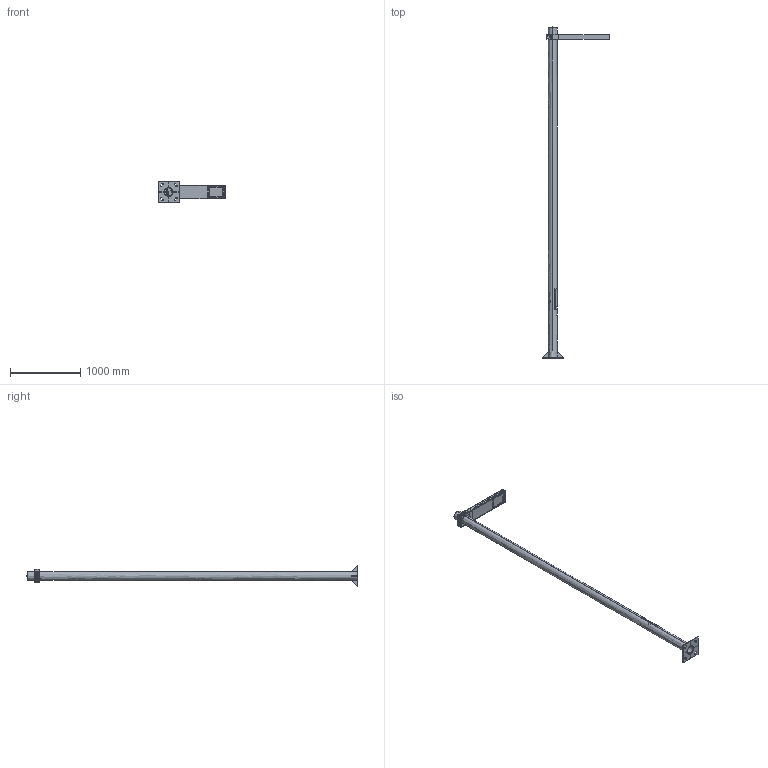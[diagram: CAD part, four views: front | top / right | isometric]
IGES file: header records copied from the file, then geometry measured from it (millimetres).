
Start section: SolidWorks IGES file using analytic representation for surfaces
Global section: file name: C:\SANTACOLE_PDM\Proyectos Catálogo\PROD-P08-042 -- RAMA LED\6_Técnico comercial\3D WEB\FAROLA RAMA LED 4.7M 1 LUMINARIA.IGS; native system: SolidWorks 2013; preprocessor: SolidWorks 2013; author: MarioV; date: 150330.135755; units: millimetre
Bounding box: 963 x 4724.5 x 300 mm (x, y, z)
Volume: 8339061.2 mm3; surface area: 5035472.7 mm2
Topology: 38 solids, 38 shells, 3626 faces, 9600 edges, 6038 vertices
Faces by surface type: plane 2288, revolution 805, bspline 533
